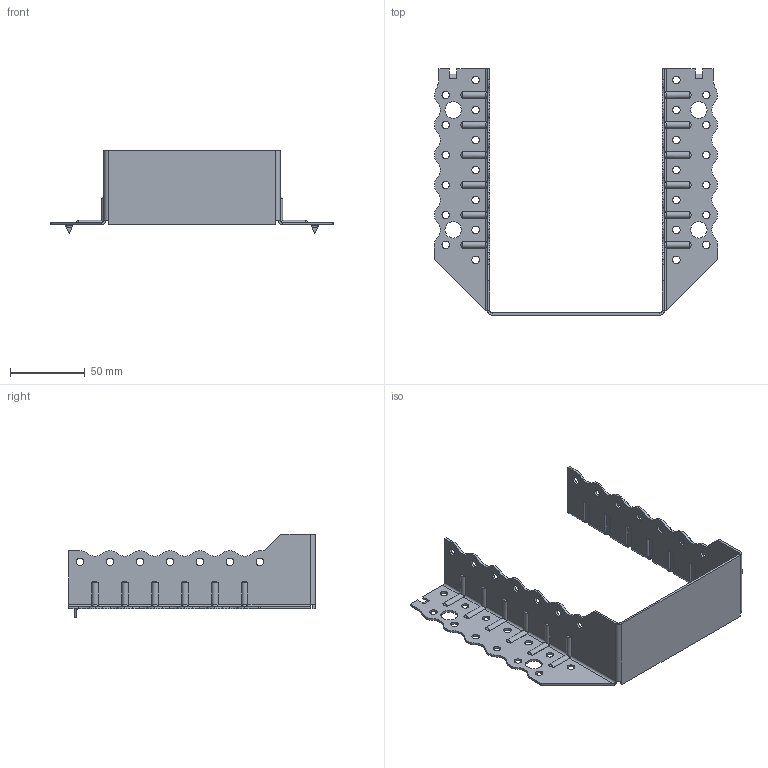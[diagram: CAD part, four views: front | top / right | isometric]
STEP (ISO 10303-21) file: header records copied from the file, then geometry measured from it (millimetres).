
FILE_DESCRIPTION (( 'STEP AP203' ), '1' );
FILE_NAME ('30629TOPK.STEP', '2021-04-08T15:06:03', ( '' ), ( '' ), 'SwSTEP 2.0', 'SolidWorks 2013', '' );
FILE_SCHEMA (( 'CONFIG_CONTROL_DESIGN' ));
Length unit declared in the file: millimetre
Products named in the file (1): 30629TOPK
Bounding box: 189 x 164.5 x 56 mm (x, y, z)
Volume: 40652 mm3; surface area: 58052.2 mm2
Topology: 1 solids, 1 shells, 496 faces, 1342 edges, 848 vertices
Faces by surface type: cylinder 315, plane 133, torus 24, bspline 24
Entity records: 18521 total; most frequent: CARTESIAN_POINT 5917, ORIENTED_EDGE 2684, DIRECTION 2582, EDGE_CURVE 1342, AXIS2_PLACEMENT_3D 943, VERTEX_POINT 848, LINE 696, VECTOR 696
